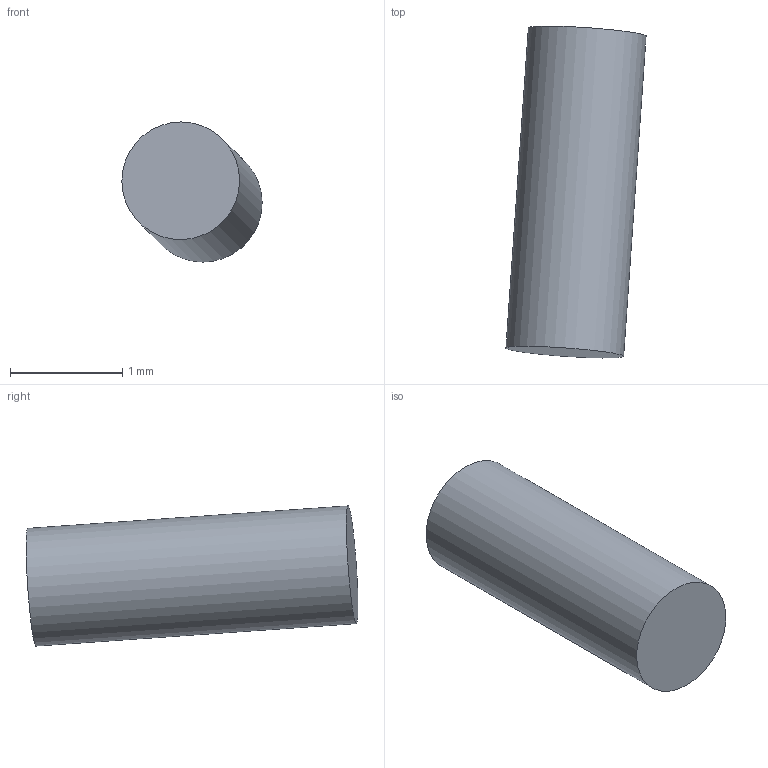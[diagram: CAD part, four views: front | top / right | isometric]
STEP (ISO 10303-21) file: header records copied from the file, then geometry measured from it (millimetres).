
FILE_DESCRIPTION(('Open CASCADE Model'),'2;1');
FILE_NAME('Open CASCADE Shape Model','2026-09-15T14:26:47',('Author'),( 'Open CASCADE'),'Open CASCADE STEP processor 7.7','Open CASCADE 7.7' ,'Unknown');
FILE_SCHEMA(('AUTOMOTIVE_DESIGN { 1 0 10303 214 1 1 1 1 }'));
Length unit declared in the file: millimetre
Products named in the file (1): J9_VOLUP_COMMON_SHORT_PIGTAIL_OD1p05_R3
Bounding box: 1.25 x 2.95 x 1.25 mm (x, y, z)
Volume: 2.5 mm3; surface area: 11.2 mm2
Topology: 1 solids, 1 shells, 3 faces, 3 edges, 2 vertices
Faces by surface type: plane 2, cylinder 1
Full cylindrical faces by diameter (mm): 1.05 x1
Entity records: 107 total; most frequent: DIRECTION 18, CARTESIAN_POINT 16, AXIS2_PLACEMENT_3D 6, ORIENTED_EDGE 6, PCURVE 6, DEFINITIONAL_REPRESENTATION 6, LINE 4, VECTOR 4
